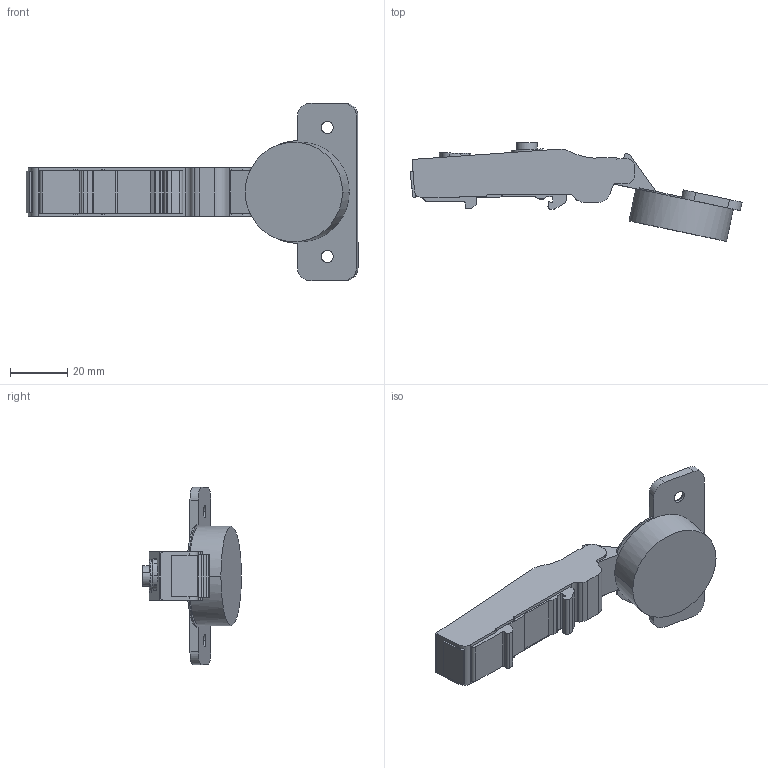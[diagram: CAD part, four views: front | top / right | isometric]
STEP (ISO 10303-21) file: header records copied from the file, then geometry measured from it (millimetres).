
FILE_DESCRIPTION (( 'STEP AP203' ), '1' );
FILE_NAME ('C80A675F-DTC3D open.STEP', '2021-04-10T08:34:49', ( '' ), ( '' ), 'SwSTEP 2.0', 'SolidWorks 2018', '' );
FILE_SCHEMA (( 'CONFIG_CONTROL_DESIGN' ));
Length unit declared in the file: millimetre
Products named in the file (1): C80A675F-DTC3D open
Bounding box: 116.11 x 34.57 x 62 mm (x, y, z)
Volume: 35474.6 mm3; surface area: 11212.4 mm2
Topology: 1 solids, 1 shells, 169 faces, 463 edges, 301 vertices
Faces by surface type: cylinder 75, plane 74, torus 12, bspline 4, cone 4
Entity records: 5710 total; most frequent: CARTESIAN_POINT 1262, DIRECTION 936, ORIENTED_EDGE 926, EDGE_CURVE 463, AXIS2_PLACEMENT_3D 333, VERTEX_POINT 301, LINE 270, VECTOR 270
